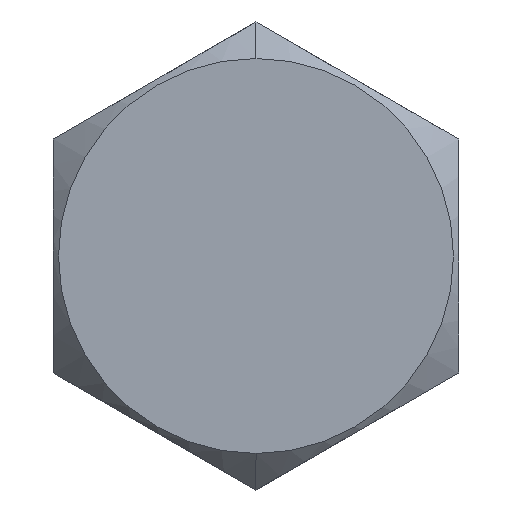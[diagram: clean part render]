
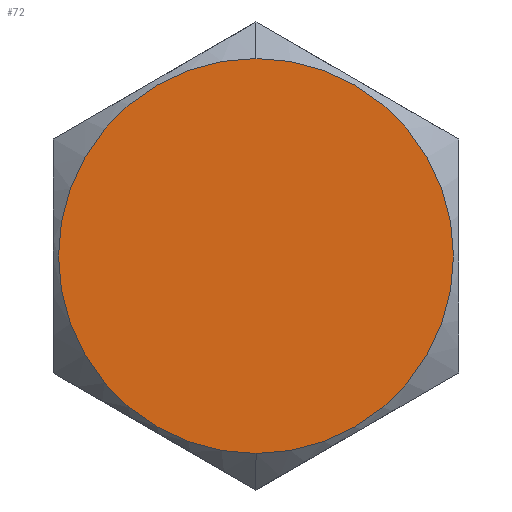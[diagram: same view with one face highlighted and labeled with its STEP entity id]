
A CAD part, left-side view. The second image highlights one B-rep face of the part: STEP entity #72.
In plain terms, the highlighted planar face has unit normal (-1, 0, 0).
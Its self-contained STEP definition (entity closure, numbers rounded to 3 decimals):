
#22 = EDGE_CURVE ( 'NONE', #580, #76, #521, .T. ) ;
#59 = EDGE_CURVE ( 'NONE', #76, #580, #272, .T. ) ;
#72 = ADVANCED_FACE ( 'NONE', ( #273 ), #529, .F. ) ;
#76 = VERTEX_POINT ( 'NONE', #155 ) ;
#90 = CARTESIAN_POINT ( 'NONE',  ( 0., 0., 4.874 ) ) ;
#130 = ORIENTED_EDGE ( 'NONE', *, *, #22, .F. ) ;
#140 = AXIS2_PLACEMENT_3D ( 'NONE', #215, #458, #602 ) ;
#155 = CARTESIAN_POINT ( 'NONE',  ( 0., 0., -4.874 ) ) ;
#163 = AXIS2_PLACEMENT_3D ( 'NONE', #773, #711, #413 ) ;
#202 = EDGE_LOOP ( 'NONE', ( #577, #130 ) ) ;
#209 = DIRECTION ( 'NONE',  ( 0., 0., -1. ) ) ;
#215 = CARTESIAN_POINT ( 'NONE',  ( 0., 0., 0. ) ) ;
#272 = CIRCLE ( 'NONE', #140, 4.874 ) ;
#273 = FACE_OUTER_BOUND ( 'NONE', #202, .T. ) ;
#413 = DIRECTION ( 'NONE',  ( 0., 0., -1. ) ) ;
#458 = DIRECTION ( 'NONE',  ( 1., 0., 0. ) ) ;
#521 = CIRCLE ( 'NONE', #163, 4.874 ) ;
#529 = PLANE ( 'NONE',  #705 ) ;
#577 = ORIENTED_EDGE ( 'NONE', *, *, #59, .F. ) ;
#580 = VERTEX_POINT ( 'NONE', #90 ) ;
#602 = DIRECTION ( 'NONE',  ( 0., 0., -1. ) ) ;
#705 = AXIS2_PLACEMENT_3D ( 'NONE', #716, #708, #209 ) ;
#708 = DIRECTION ( 'NONE',  ( 1., 0., 0. ) ) ;
#711 = DIRECTION ( 'NONE',  ( 1., 0., 0. ) ) ;
#716 = CARTESIAN_POINT ( 'NONE',  ( 0., 0., 0. ) ) ;
#773 = CARTESIAN_POINT ( 'NONE',  ( 0., 0., 0. ) ) ;
